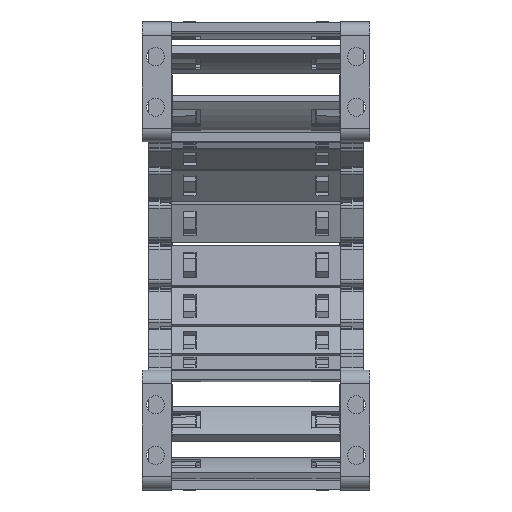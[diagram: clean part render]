
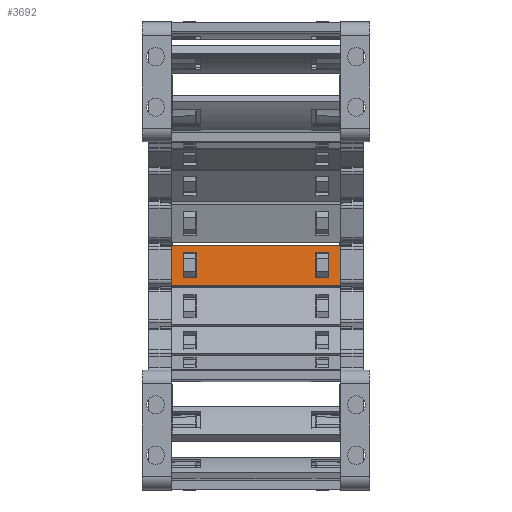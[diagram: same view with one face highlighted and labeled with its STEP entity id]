
A CAD part, left-side view. The second image highlights one B-rep face of the part: STEP entity #3692.
In plain terms, the highlighted planar face has unit normal (-0.998, 0, 0.07) as drawn and (0, 0, -1) by its records, which use the part's own axes.
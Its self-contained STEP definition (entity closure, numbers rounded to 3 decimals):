
#3172=DIRECTION('',(-1.,0.,0.));
#3173=VECTOR('',#3172,18.);
#3174=CARTESIAN_POINT('',(9.,-50.25,0.));
#3175=LINE('',#3174,#3173);
#3210=DIRECTION('',(0.,1.,0.));
#3211=VECTOR('',#3210,5.56);
#3212=CARTESIAN_POINT('',(-5.55,14.2,0.));
#3213=LINE('',#3212,#3211);
#3214=DIRECTION('',(1.,0.,0.));
#3215=VECTOR('',#3214,11.1);
#3216=CARTESIAN_POINT('',(-5.55,19.76,0.));
#3217=LINE('',#3216,#3215);
#3218=DIRECTION('',(0.,-1.,0.));
#3219=VECTOR('',#3218,5.56);
#3220=CARTESIAN_POINT('',(5.55,19.76,0.));
#3221=LINE('',#3220,#3219);
#3222=DIRECTION('',(-1.,0.,0.));
#3223=VECTOR('',#3222,11.1);
#3224=CARTESIAN_POINT('',(5.55,14.2,0.));
#3225=LINE('',#3224,#3223);
#3230=DIRECTION('',(1.,0.,0.));
#3231=VECTOR('',#3230,18.);
#3232=CARTESIAN_POINT('',(-9.,25.25,0.));
#3233=LINE('',#3232,#3231);
#3264=DIRECTION('',(0.,1.,0.));
#3265=VECTOR('',#3264,75.5);
#3266=CARTESIAN_POINT('',(-9.,-50.25,0.));
#3267=LINE('',#3266,#3265);
#3393=DIRECTION('',(0.,-1.,0.));
#3394=VECTOR('',#3393,75.5);
#3395=CARTESIAN_POINT('',(9.,25.25,0.));
#3396=LINE('',#3395,#3394);
#3458=DIRECTION('',(0.,-1.,0.));
#3459=VECTOR('',#3458,5.56);
#3460=CARTESIAN_POINT('',(-5.55,-39.2,0.));
#3461=LINE('',#3460,#3459);
#3470=DIRECTION('',(0.,1.,0.));
#3471=VECTOR('',#3470,5.56);
#3472=CARTESIAN_POINT('',(5.55,-44.76,0.));
#3473=LINE('',#3472,#3471);
#3482=DIRECTION('',(1.,0.,0.));
#3483=VECTOR('',#3482,11.1);
#3484=CARTESIAN_POINT('',(-5.55,-44.76,0.));
#3485=LINE('',#3484,#3483);
#3494=DIRECTION('',(-1.,0.,0.));
#3495=VECTOR('',#3494,11.1);
#3496=CARTESIAN_POINT('',(5.55,-39.2,0.));
#3497=LINE('',#3496,#3495);
#3546=CARTESIAN_POINT('',(9.,-50.25,0.));
#3547=CARTESIAN_POINT('',(-9.,-50.25,0.));
#3548=VERTEX_POINT('',#3546);
#3549=VERTEX_POINT('',#3547);
#3570=CARTESIAN_POINT('',(-5.55,-39.2,0.));
#3571=CARTESIAN_POINT('',(-5.55,-44.76,0.));
#3572=VERTEX_POINT('',#3570);
#3573=VERTEX_POINT('',#3571);
#3574=CARTESIAN_POINT('',(5.55,-39.2,0.));
#3575=VERTEX_POINT('',#3574);
#3576=CARTESIAN_POINT('',(5.55,-44.76,0.));
#3577=VERTEX_POINT('',#3576);
#3602=CARTESIAN_POINT('',(-9.,25.25,0.));
#3603=CARTESIAN_POINT('',(9.,25.25,0.));
#3604=VERTEX_POINT('',#3602);
#3605=VERTEX_POINT('',#3603);
#3606=CARTESIAN_POINT('',(-5.55,14.2,0.));
#3607=CARTESIAN_POINT('',(-5.55,19.76,0.));
#3608=VERTEX_POINT('',#3606);
#3609=VERTEX_POINT('',#3607);
#3610=CARTESIAN_POINT('',(5.55,19.76,0.));
#3611=VERTEX_POINT('',#3610);
#3612=CARTESIAN_POINT('',(5.55,14.2,0.));
#3613=VERTEX_POINT('',#3612);
#3658=CARTESIAN_POINT('',(8.,-50.25,0.));
#3659=DIRECTION('',(0.,0.,-1.));
#3660=DIRECTION('',(-1.,0.,0.));
#3661=AXIS2_PLACEMENT_3D('',#3658,#3659,#3660);
#3662=PLANE('',#3661);
#3664=ORIENTED_EDGE('',*,*,#3663,.F.);
#3666=ORIENTED_EDGE('',*,*,#3665,.F.);
#3667=ORIENTED_EDGE('',*,*,#3631,.F.);
#3669=ORIENTED_EDGE('',*,*,#3668,.F.);
#3670=EDGE_LOOP('',(#3664,#3666,#3667,#3669));
#3671=FACE_OUTER_BOUND('',#3670,.F.);
#3673=ORIENTED_EDGE('',*,*,#3672,.T.);
#3675=ORIENTED_EDGE('',*,*,#3674,.T.);
#3677=ORIENTED_EDGE('',*,*,#3676,.T.);
#3679=ORIENTED_EDGE('',*,*,#3678,.T.);
#3680=EDGE_LOOP('',(#3673,#3675,#3677,#3679));
#3681=FACE_BOUND('',#3680,.F.);
#3683=ORIENTED_EDGE('',*,*,#3682,.F.);
#3685=ORIENTED_EDGE('',*,*,#3684,.F.);
#3687=ORIENTED_EDGE('',*,*,#3686,.F.);
#3689=ORIENTED_EDGE('',*,*,#3688,.F.);
#3690=EDGE_LOOP('',(#3683,#3685,#3687,#3689));
#3691=FACE_BOUND('',#3690,.F.);
#3692=ADVANCED_FACE('',(#3671,#3681,#3691),#3662,.T.);
#3631=EDGE_CURVE('',#3548,#3549,#3175,.T.);
#3663=EDGE_CURVE('',#3604,#3605,#3233,.T.);
#3665=EDGE_CURVE('',#3549,#3604,#3267,.T.);
#3668=EDGE_CURVE('',#3605,#3548,#3396,.T.);
#3672=EDGE_CURVE('',#3608,#3609,#3213,.T.);
#3674=EDGE_CURVE('',#3609,#3611,#3217,.T.);
#3676=EDGE_CURVE('',#3611,#3613,#3221,.T.);
#3678=EDGE_CURVE('',#3613,#3608,#3225,.T.);
#3682=EDGE_CURVE('',#3572,#3573,#3461,.T.);
#3684=EDGE_CURVE('',#3575,#3572,#3497,.T.);
#3686=EDGE_CURVE('',#3577,#3575,#3473,.T.);
#3688=EDGE_CURVE('',#3573,#3577,#3485,.T.);
